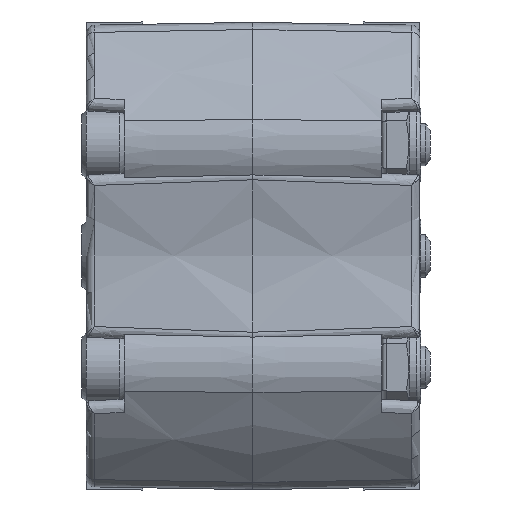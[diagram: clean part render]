
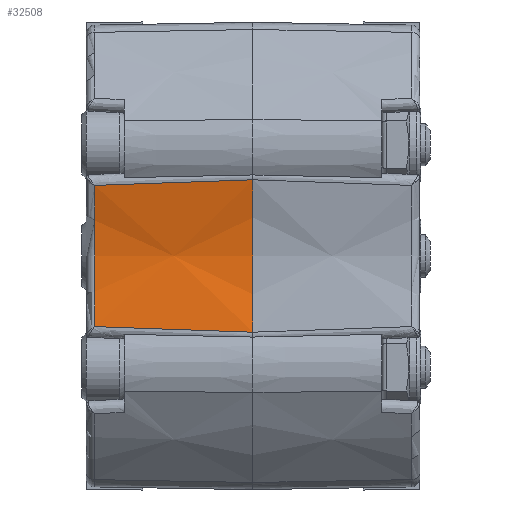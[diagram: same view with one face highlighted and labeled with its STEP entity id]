
A CAD part, front view. The second image highlights one B-rep face of the part: STEP entity #32508.
In plain terms, the highlighted conical face has half-angle 1 degrees and reference radius 30 mm.
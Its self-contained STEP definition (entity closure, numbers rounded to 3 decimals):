
#383 = EDGE_LOOP ( 'NONE', ( #11135, #41090, #5711, #38003 ) ) ;
#504 = EDGE_CURVE ( 'NONE', #22022, #594, #12908, .T. ) ;
#594 = VERTEX_POINT ( 'NONE', #41534 ) ;
#1981 = B_SPLINE_CURVE_WITH_KNOTS ( 'NONE', 3,
 ( #42844, #9225, #32775, #29288, #33056, #42697, #32482, #12832, #36021, #32626, #12556, #22897, #22619 ),
 .UNSPECIFIED., .F., .F.,
 ( 4, 3, 3, 3, 4 ),
 ( 0., 0.002, 0.01, 0.018, 0.018 ),
 .UNSPECIFIED. ) ;
#5711 = ORIENTED_EDGE ( 'NONE', *, *, #32118, .T. ) ;
#6284 = CARTESIAN_POINT ( 'NONE',  ( 0., -64.223, 0. ) ) ;
#6360 = CARTESIAN_POINT ( 'NONE',  ( 8.057, -34.998, 18.067 ) ) ;
#8903 = CARTESIAN_POINT ( 'NONE',  ( -8.697, -35.511, 0. ) ) ;
#9225 = CARTESIAN_POINT ( 'NONE',  ( 8.674, -35.492, 0.666 ) ) ;
#9379 = EDGE_CURVE ( 'NONE', #12066, #22022, #1981, .T. ) ;
#9415 = CARTESIAN_POINT ( 'NONE',  ( 0., -64.223, 0. ) ) ;
#9450 = AXIS2_PLACEMENT_3D ( 'NONE', #6284, #39477, #29549 ) ;
#9470 = CARTESIAN_POINT ( 'NONE',  ( -8.069, -35.007, 17.729 ) ) ;
#9863 = DIRECTION ( 'NONE',  ( 1., 0., 0. ) ) ;
#10280 = CARTESIAN_POINT ( 'NONE',  ( 8.697, -35.511, 0. ) ) ;
#11135 = ORIENTED_EDGE ( 'NONE', *, *, #9379, .T. ) ;
#12066 = VERTEX_POINT ( 'NONE', #10280 ) ;
#12402 = EDGE_CURVE ( 'NONE', #25703, #12066, #36919, .T. ) ;
#12556 = CARTESIAN_POINT ( 'NONE',  ( 8.061, -35.001, 17.952 ) ) ;
#12832 = CARTESIAN_POINT ( 'NONE',  ( 8.248, -35.149, 12.625 ) ) ;
#12908 = CIRCLE ( 'NONE', #20525, 30.315 ) ;
#17663 = DIRECTION ( 'NONE',  ( 1., 0., 0. ) ) ;
#19049 = CARTESIAN_POINT ( 'NONE',  ( -8.093, -35.026, 17.052 ) ) ;
#19190 = CARTESIAN_POINT ( 'NONE',  ( -8.589, -35.423, 3.02 ) ) ;
#19338 = CARTESIAN_POINT ( 'NONE',  ( -8.28, -35.175, 11.724 ) ) ;
#20525 = AXIS2_PLACEMENT_3D ( 'NONE', #24628, #40960, #17663 ) ;
#22022 = VERTEX_POINT ( 'NONE', #6360 ) ;
#22572 = CARTESIAN_POINT ( 'NONE',  ( -8.081, -35.016, 17.39 ) ) ;
#22619 = CARTESIAN_POINT ( 'NONE',  ( 8.057, -34.998, 18.067 ) ) ;
#22705 = CARTESIAN_POINT ( 'NONE',  ( -8.482, -35.336, 6.04 ) ) ;
#22897 = CARTESIAN_POINT ( 'NONE',  ( 8.059, -34.999, 18.01 ) ) ;
#24092 = CONICAL_SURFACE ( 'NONE', #40197, 30., 0.017 ) ;
#24628 = CARTESIAN_POINT ( 'NONE',  ( 0., -64.223, 18.067 ) ) ;
#25703 = VERTEX_POINT ( 'NONE', #8903 ) ;
#26177 = CARTESIAN_POINT ( 'NONE',  ( -8.375, -35.251, 9.06 ) ) ;
#28772 = FACE_OUTER_BOUND ( 'NONE', #383, .T. ) ;
#29093 = CARTESIAN_POINT ( 'NONE',  ( -8.186, -35.1, 14.388 ) ) ;
#29288 = CARTESIAN_POINT ( 'NONE',  ( 8.626, -35.453, 1.998 ) ) ;
#29370 = CARTESIAN_POINT ( 'NONE',  ( -8.057, -34.998, 18.067 ) ) ;
#29549 = DIRECTION ( 'NONE',  ( 1., 0., 0. ) ) ;
#32118 = EDGE_CURVE ( 'NONE', #594, #25703, #40271, .T. ) ;
#32482 = CARTESIAN_POINT ( 'NONE',  ( 8.342, -35.224, 9.99 ) ) ;
#32508 = ADVANCED_FACE ( 'NONE', ( #28772 ), #24092, .F. ) ;
#32626 = CARTESIAN_POINT ( 'NONE',  ( 8.063, -35.002, 17.895 ) ) ;
#32720 = CARTESIAN_POINT ( 'NONE',  ( -8.697, -35.511, 0. ) ) ;
#32775 = CARTESIAN_POINT ( 'NONE',  ( 8.65, -35.472, 1.332 ) ) ;
#32963 = DIRECTION ( 'NONE',  ( 0., 0., 1. ) ) ;
#33056 = CARTESIAN_POINT ( 'NONE',  ( 8.531, -35.376, 4.662 ) ) ;
#36021 = CARTESIAN_POINT ( 'NONE',  ( 8.155, -35.076, 15.26 ) ) ;
#36919 = CIRCLE ( 'NONE', #9450, 30. ) ;
#38003 = ORIENTED_EDGE ( 'NONE', *, *, #12402, .T. ) ;
#39477 = DIRECTION ( 'NONE',  ( 0., 0., -1. ) ) ;
#40197 = AXIS2_PLACEMENT_3D ( 'NONE', #9415, #32963, #9863 ) ;
#40271 = B_SPLINE_CURVE_WITH_KNOTS ( 'NONE', 3,
 ( #29370, #9470, #22572, #19049, #29093, #19338, #26177, #22705, #19190, #32720 ),
 .UNSPECIFIED., .F., .F.,
 ( 4, 3, 3, 4 ),
 ( 0.001, 0.002, 0.01, 0.019 ),
 .UNSPECIFIED. ) ;
#40960 = DIRECTION ( 'NONE',  ( 0., 0., 1. ) ) ;
#41090 = ORIENTED_EDGE ( 'NONE', *, *, #504, .T. ) ;
#41534 = CARTESIAN_POINT ( 'NONE',  ( -8.057, -34.998, 18.067 ) ) ;
#42697 = CARTESIAN_POINT ( 'NONE',  ( 8.436, -35.3, 7.326 ) ) ;
#42844 = CARTESIAN_POINT ( 'NONE',  ( 8.697, -35.511, 0. ) ) ;
